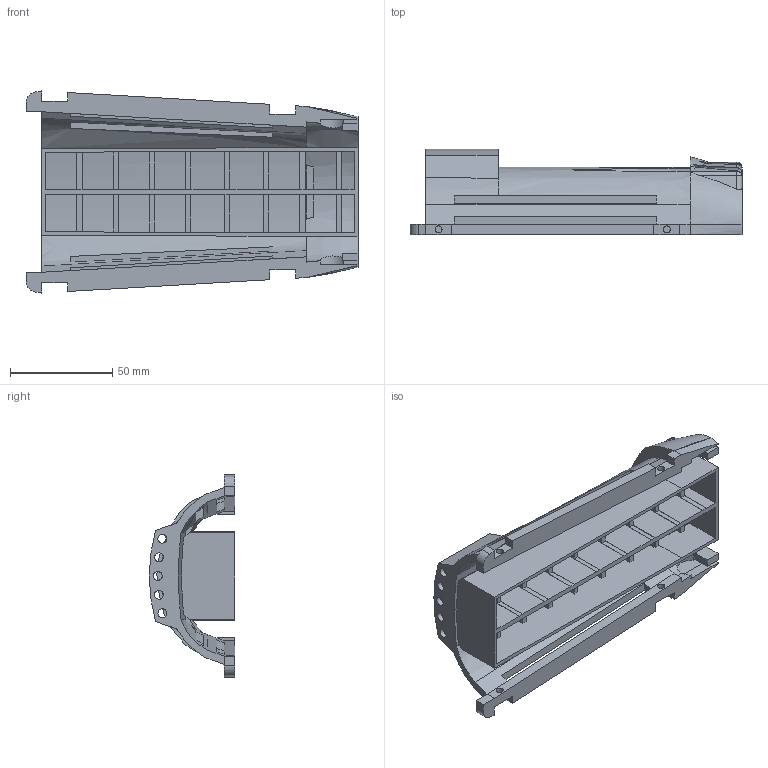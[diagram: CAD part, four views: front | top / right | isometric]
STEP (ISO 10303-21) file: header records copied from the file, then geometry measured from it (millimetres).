
FILE_DESCRIPTION(/* description */ (''),/* implementation_level */ '2;1');
FILE_NAME(/* name */ 'C:/Users/Ryan/Documents/AIO Robotics/CAD Files/InnerForearm.step',/* time_stamp */ '2017-02-04T20:44:01-08:00',/* author */ (''),/* organization */ (''),/* preprocessor_version */ 'ST-DEVELOPER v16.5',/* originating_system */ 'Autodesk Translation Framework v5.2.0.2920',/* authorisation */ '');
FILE_SCHEMA (('AUTOMOTIVE_DESIGN { 1 0 10303 214 3 1 1 }'));
Length unit declared in the file: inch
Products named in the file (1): InnerForearm v2 v49
Bounding box: 162.56 x 41.87 x 98.93 mm (x, y, z)
Volume: 119496.1 mm3; surface area: 90385.8 mm2
Topology: 6 solids, 7 shells, 301 faces, 850 edges, 558 vertices
Faces by surface type: plane 212, bspline 64, cylinder 23, sphere 2
Full cylindrical faces by diameter (mm): 3.429 x4, 4.318 x5
Entity records: 12000 total; most frequent: CARTESIAN_POINT 4467, ORIENTED_EDGE 1680, DIRECTION 1341, EDGE_CURVE 837, LINE 597, VECTOR 597, VERTEX_POINT 555, AXIS2_PLACEMENT_3D 372
